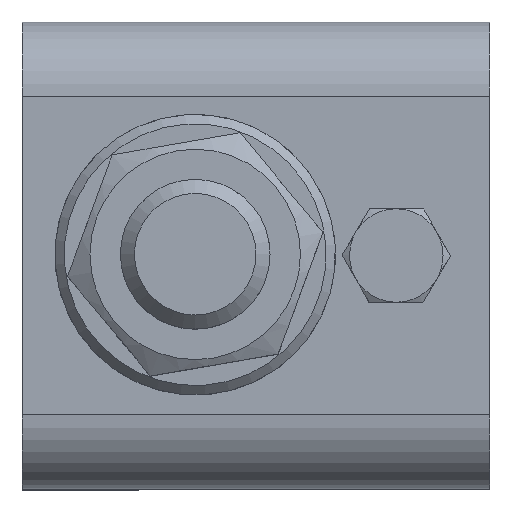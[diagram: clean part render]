
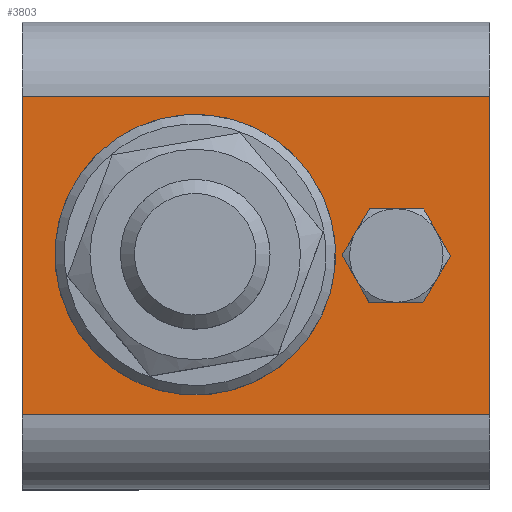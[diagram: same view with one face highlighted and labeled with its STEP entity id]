
A CAD part, top view. The second image highlights one B-rep face of the part: STEP entity #3803.
In plain terms, the highlighted planar face has unit normal (0, 0, 1).
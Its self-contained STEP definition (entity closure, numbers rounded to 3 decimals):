
#77=LINE('',#5814,#387);
#79=LINE('',#5818,#389);
#80=LINE('',#5820,#390);
#81=LINE('',#5821,#391);
#387=VECTOR('',#4567,50.);
#389=VECTOR('',#4571,34.);
#390=VECTOR('',#4572,50.);
#391=VECTOR('',#4573,34.);
#750=PLANE('',#4059);
#864=FACE_BOUND('',#1159,.T.);
#865=FACE_BOUND('',#1160,.T.);
#919=FACE_OUTER_BOUND('',#1158,.T.);
#1158=EDGE_LOOP('',(#2606,#2607,#2608,#2609));
#1159=EDGE_LOOP('',(#2610));
#1160=EDGE_LOOP('',(#2611));
#1435=CIRCLE('',#4060,2.459);
#1436=CIRCLE('',#4061,2.5);
#1658=VERTEX_POINT('',#5798);
#1661=VERTEX_POINT('',#5805);
#1663=VERTEX_POINT('',#5817);
#1664=VERTEX_POINT('',#5819);
#1665=VERTEX_POINT('',#5822);
#1666=VERTEX_POINT('',#5824);
#2033=EDGE_CURVE('',#1658,#1661,#77,.T.);
#2035=EDGE_CURVE('',#1661,#1663,#79,.T.);
#2036=EDGE_CURVE('',#1663,#1664,#80,.T.);
#2037=EDGE_CURVE('',#1664,#1658,#81,.T.);
#2038=EDGE_CURVE('',#1665,#1665,#1435,.T.);
#2039=EDGE_CURVE('',#1666,#1666,#1436,.T.);
#2606=ORIENTED_EDGE('',*,*,#2033,.T.);
#2607=ORIENTED_EDGE('',*,*,#2035,.T.);
#2608=ORIENTED_EDGE('',*,*,#2036,.T.);
#2609=ORIENTED_EDGE('',*,*,#2037,.T.);
#2610=ORIENTED_EDGE('',*,*,#2038,.T.);
#2611=ORIENTED_EDGE('',*,*,#2039,.T.);
#3803=ADVANCED_FACE('',(#919,#864,#865),#750,.T.);
#4059=AXIS2_PLACEMENT_3D('',#5816,#4569,#4570);
#4060=AXIS2_PLACEMENT_3D('',#5823,#4574,#4575);
#4061=AXIS2_PLACEMENT_3D('',#5825,#4576,#4577);
#4567=DIRECTION('',(0.,1.,0.));
#4569=DIRECTION('center_axis',(0.,0.,1.));
#4570=DIRECTION('ref_axis',(1.,0.,0.));
#4571=DIRECTION('',(-1.,0.,0.));
#4572=DIRECTION('',(0.,-1.,0.));
#4573=DIRECTION('',(1.,0.,0.));
#4574=DIRECTION('center_axis',(0.,0.,-1.));
#4575=DIRECTION('ref_axis',(1.,0.,0.));
#4576=DIRECTION('center_axis',(0.,0.,-1.));
#4577=DIRECTION('ref_axis',(-1.,0.,0.));
#5798=CARTESIAN_POINT('',(17.,-25.,0.));
#5805=CARTESIAN_POINT('',(17.,25.,0.));
#5814=CARTESIAN_POINT('',(17.,12.5,0.));
#5816=CARTESIAN_POINT('Origin',(64.836,0.,0.));
#5817=CARTESIAN_POINT('',(-17.,25.,0.));
#5818=CARTESIAN_POINT('',(67.679,25.,0.));
#5819=CARTESIAN_POINT('',(-17.,-25.,0.));
#5820=CARTESIAN_POINT('',(-17.,-12.5,0.));
#5821=CARTESIAN_POINT('',(-67.679,-25.,0.));
#5822=CARTESIAN_POINT('',(2.459,-15.,0.));
#5823=CARTESIAN_POINT('Origin',(0.,-15.,0.));
#5824=CARTESIAN_POINT('',(2.5,15.,0.));
#5825=CARTESIAN_POINT('Origin',(0.,15.,0.));
